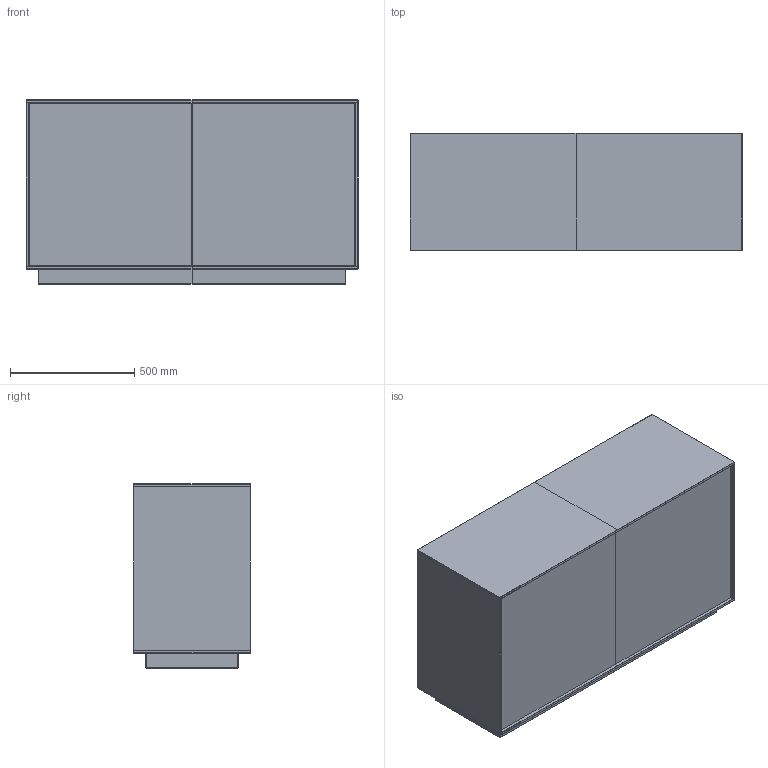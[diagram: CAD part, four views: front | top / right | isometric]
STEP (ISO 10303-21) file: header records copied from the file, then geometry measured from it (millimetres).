
FILE_DESCRIPTION(/* description */ (''),/* implementation_level */ '2;1');
FILE_NAME(/* name */ 'ECHO-C~1',/* time_stamp */ '2021-10-13T10:15:52+02:00',/* author */ (''),/* organization */ (''),/* preprocessor_version */ 'ST-DEVELOPER v16.5',/* originating_system */ '',/* authorisation */ '');
FILE_SCHEMA (('AUTOMOTIVE_DESIGN'));
Length unit declared in the file: millimetre
Products named in the file (1): Document
Bounding box: 1335 x 470 x 740 mm (x, y, z)
Volume: 82185856.9 mm3; surface area: 13215945.6 mm2
Topology: 17 solids, 17 shells, 408 faces, 3986 edges, 3608 vertices
Faces by surface type: bspline 272, plane 136
Entity records: 38909 total; most frequent: CARTESIAN_POINT 13029, COLOUR_RGB 3219, PRESENTATION_STYLE_ASSIGNMENT 3219, STYLED_ITEM 3219, PRESENTATION_LAYER_ASSIGNMENT 3219, CURVE_STYLE 3202, DIRECTION 1744, VECTOR 1602
